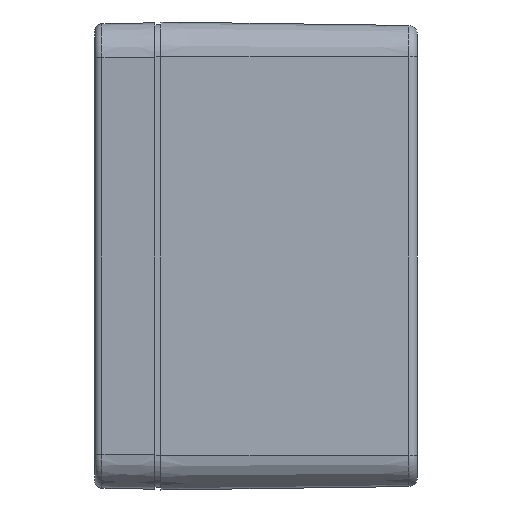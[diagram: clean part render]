
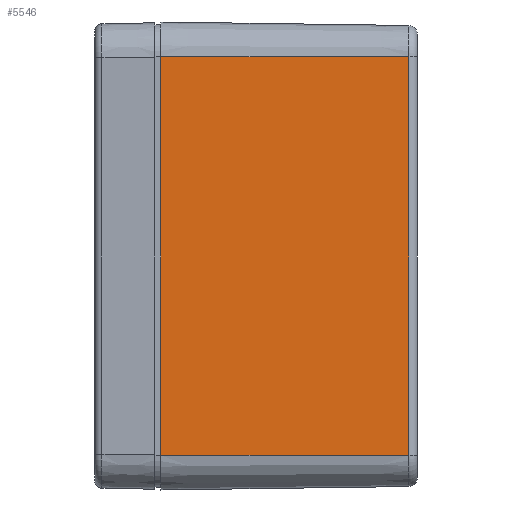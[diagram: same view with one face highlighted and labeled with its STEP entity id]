
A CAD part, left-side view. The second image highlights one B-rep face of the part: STEP entity #5546.
In plain terms, the highlighted planar face has unit normal (-1, -0.014, 0).
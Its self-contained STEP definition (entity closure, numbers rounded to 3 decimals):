
#301 = VERTEX_POINT ( 'NONE', #40079 ) ;
#806 = CARTESIAN_POINT ( 'NONE',  ( -97.486, -1., -34.15 ) ) ;
#1541 = CARTESIAN_POINT ( 'NONE',  ( -97.5, 0., -34.15 ) ) ;
#2264 = CARTESIAN_POINT ( 'NONE',  ( -96.892, -43.521, 34.15 ) ) ;
#3212 = EDGE_CURVE ( 'NONE', #44602, #45213, #36025, .T. ) ;
#5546 = ADVANCED_FACE ( 'NONE', ( #7825 ), #38525, .T. ) ;
#5601 = EDGE_CURVE ( 'NONE', #44602, #40157, #48303, .T. ) ;
#7518 = VECTOR ( 'NONE', #43530, 1000. ) ;
#7825 = FACE_OUTER_BOUND ( 'NONE', #20385, .T. ) ;
#8888 = DIRECTION ( 'NONE',  ( 0., 0., -1. ) ) ;
#10808 = DIRECTION ( 'NONE',  ( -0.014, 1., 0. ) ) ;
#14444 = ORIENTED_EDGE ( 'NONE', *, *, #22773, .T. ) ;
#16913 = DIRECTION ( 'NONE',  ( -0.014, 1., 0. ) ) ;
#17132 = DIRECTION ( 'NONE',  ( 0.014, -1., 0. ) ) ;
#18312 = CARTESIAN_POINT ( 'NONE',  ( -96.892, -43.521, -34.15 ) ) ;
#20385 = EDGE_LOOP ( 'NONE', ( #24975, #14444, #31481, #21769 ) ) ;
#21553 = VECTOR ( 'NONE', #16913, 1000. ) ;
#21746 = EDGE_CURVE ( 'NONE', #40157, #301, #33709, .T. ) ;
#21769 = ORIENTED_EDGE ( 'NONE', *, *, #5601, .T. ) ;
#21922 = CARTESIAN_POINT ( 'NONE',  ( -96.892, -43.521, 34.15 ) ) ;
#22773 = EDGE_CURVE ( 'NONE', #301, #45213, #27764, .T. ) ;
#24696 = DIRECTION ( 'NONE',  ( -1., -0.014, 0. ) ) ;
#24975 = ORIENTED_EDGE ( 'NONE', *, *, #21746, .T. ) ;
#27764 = LINE ( 'NONE', #43338, #35716 ) ;
#31481 = ORIENTED_EDGE ( 'NONE', *, *, #3212, .F. ) ;
#33709 = LINE ( 'NONE', #45261, #43684 ) ;
#35716 = VECTOR ( 'NONE', #8888, 1000. ) ;
#35994 = CARTESIAN_POINT ( 'NONE',  ( -97.5, 0., 34.15 ) ) ;
#36025 = LINE ( 'NONE', #1541, #21553 ) ;
#38525 = PLANE ( 'NONE',  #46594 ) ;
#40079 = CARTESIAN_POINT ( 'NONE',  ( -97.486, -1., 34.15 ) ) ;
#40157 = VERTEX_POINT ( 'NONE', #21922 ) ;
#43338 = CARTESIAN_POINT ( 'NONE',  ( -97.486, -1., 34.15 ) ) ;
#43530 = DIRECTION ( 'NONE',  ( 0., 0., 1. ) ) ;
#43684 = VECTOR ( 'NONE', #10808, 1000. ) ;
#44602 = VERTEX_POINT ( 'NONE', #18312 ) ;
#45213 = VERTEX_POINT ( 'NONE', #806 ) ;
#45261 = CARTESIAN_POINT ( 'NONE',  ( -97.5, 0., 34.15 ) ) ;
#46594 = AXIS2_PLACEMENT_3D ( 'NONE', #35994, #24696, #17132 ) ;
#48303 = LINE ( 'NONE', #2264, #7518 ) ;
